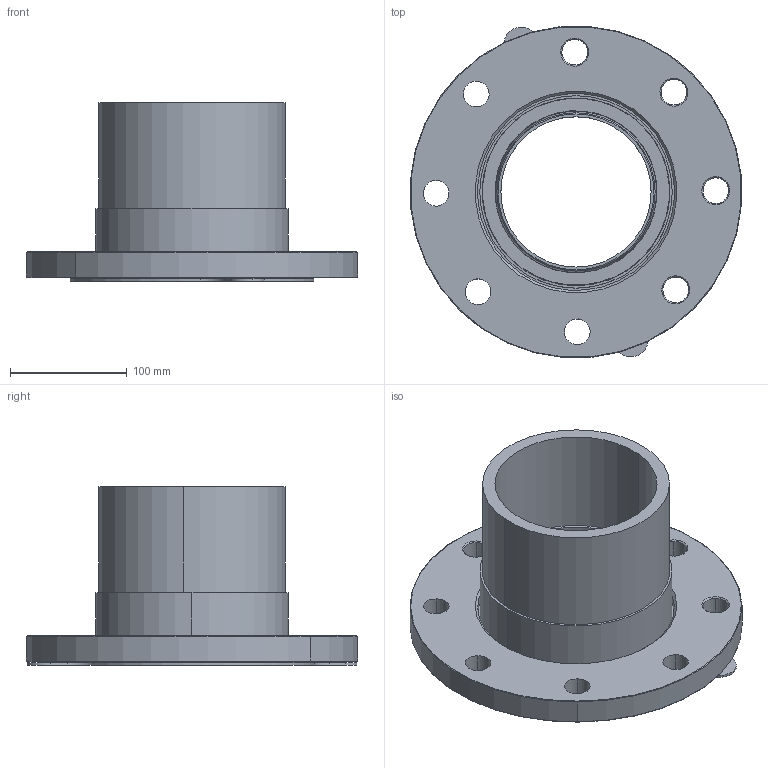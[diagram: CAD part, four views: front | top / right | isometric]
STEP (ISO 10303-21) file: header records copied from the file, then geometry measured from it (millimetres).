
FILE_DESCRIPTION (( 'STEP AP214' ), '1' );
FILE_NAME ('KP_C20-160.STEP', '2023-03-10T06:13:20', ( '' ), ( '' ), 'SwSTEP 2.0', 'SolidWorks 2022', '' );
FILE_SCHEMA (( 'AUTOMOTIVE_DESIGN' ));
Length unit declared in the file: millimetre
Products named in the file (1): KP_C20-160
Bounding box: 284.13 x 284.13 x 153 mm (x, y, z)
Volume: 1790654.3 mm3; surface area: 400147.7 mm2
Topology: 1 solids, 1 shells, 101 faces, 232 edges, 144 vertices
Faces by surface type: cylinder 50, cone 22, plane 17, torus 12
Entity records: 3023 total; most frequent: DIRECTION 584, CARTESIAN_POINT 478, ORIENTED_EDGE 464, AXIS2_PLACEMENT_3D 250, EDGE_CURVE 232, CIRCLE 148, VERTEX_POINT 144, EDGE_LOOP 130
